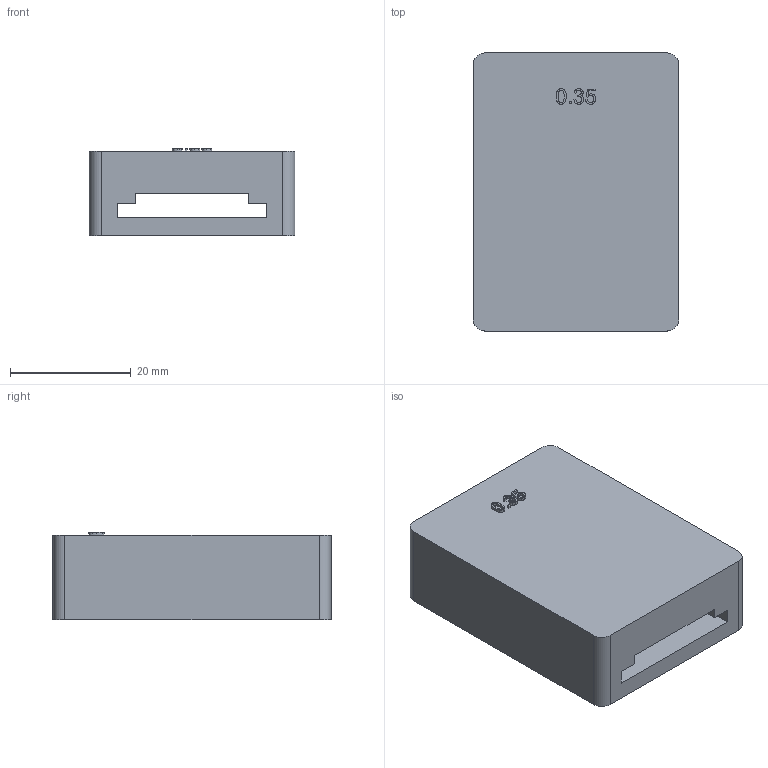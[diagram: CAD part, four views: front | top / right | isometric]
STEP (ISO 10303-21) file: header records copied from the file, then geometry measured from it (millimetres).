
FILE_DESCRIPTION(('Open CASCADE Model'),'2;1');
FILE_NAME('Open CASCADE Shape Model','1970-01-01T00:00:00',('Author'),( 'Open CASCADE'),'Open CASCADE STEP processor 7.8','Open CASCADE 7.8' ,'Unknown');
FILE_SCHEMA(('AUTOMOTIVE_DESIGN { 1 0 10303 214 1 1 1 1 }'));
Length unit declared in the file: millimetre
Products named in the file (2): Open CASCADE STEP translator 7.8 6; S35R sliding receiver
Assembly tree (1 placements, depth 2):
  Open CASCADE STEP translator 7.8 6
    S35R sliding receiver
Bounding box: 34 x 46 x 14.48 mm (x, y, z)
Volume: 17469 mm3; surface area: 7802.1 mm2
Topology: 1 solids, 1 shells, 103 faces, 294 edges, 196 vertices
Faces by surface type: extrusion 62, plane 35, cylinder 6
Full cylindrical faces by diameter (mm): 6.8 x2
Entity records: 8394 total; most frequent: CARTESIAN_POINT 3178, DIRECTION 660, ORIENTED_EDGE 588, PCURVE 588, DEFINITIONAL_REPRESENTATION 588, VECTOR 530, LINE 468, B_SPLINE_CURVE_WITH_KNOTS 444
